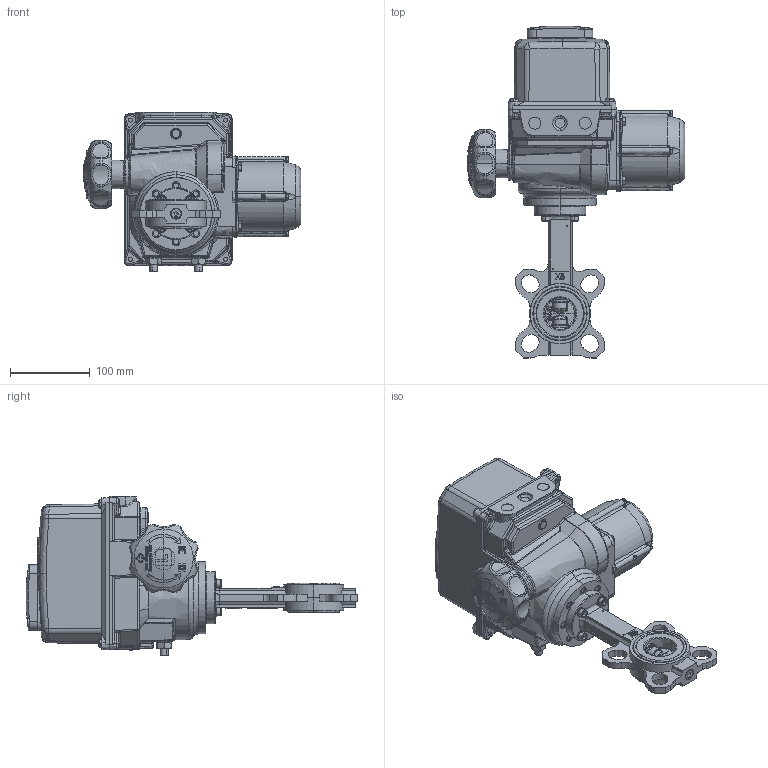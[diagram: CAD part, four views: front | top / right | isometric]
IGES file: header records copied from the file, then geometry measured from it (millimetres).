
Start section: SolidWorks IGES file using NURBS representation for surfaces
Global section: file name: H:\BE BIBLIOTHEQUE 3D\Projet_Biblio3D_2016\FSK\VPI\VPI-B04\VPI-B24 DN40.Igs; native system: SolidWorks 2014; preprocessor: SolidWorks 2014; author: a.cartier; date: 160929.165755; units: millimetre
Bounding box: 272.5 x 415.2 x 199.8 mm (x, y, z)
Volume: 4825637.7 mm3; surface area: 294100 mm2
Topology: 14 solids, 14 shells, 2971 faces, 7759 edges, 4839 vertices
Faces by surface type: bspline 2971
